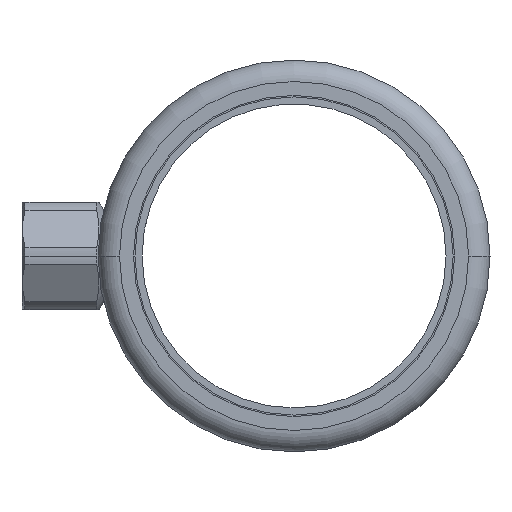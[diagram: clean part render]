
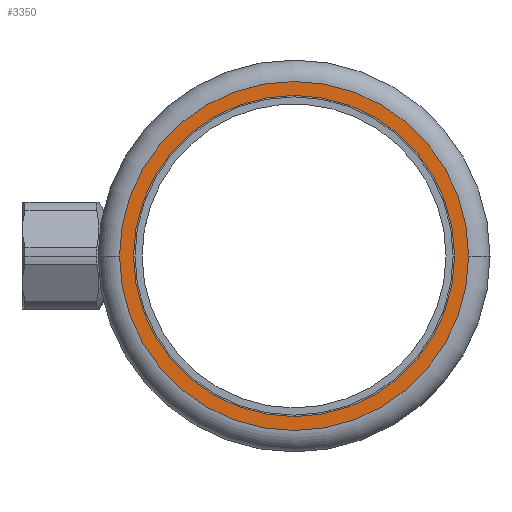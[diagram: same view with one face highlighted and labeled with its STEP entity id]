
A CAD part, left-side view. The second image highlights one B-rep face of the part: STEP entity #3350.
In plain terms, the highlighted planar face has unit normal (-1, 0, 0) as drawn and (1, 0, 0) by its records, which use the part's own axes.
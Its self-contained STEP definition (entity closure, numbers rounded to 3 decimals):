
#540=CARTESIAN_POINT('',(71.,44.85,0.));
#550=VERTEX_POINT('',#540);
#580=CARTESIAN_POINT('',(71.,0.,0.));
#590=DIRECTION('',(1.,0.,0.));
#600=DIRECTION('',(0.,1.,0.));
#610=AXIS2_PLACEMENT_3D('',#580,#590,#600);
#620=CIRCLE('',#610,44.85);
#630=CARTESIAN_POINT('',(71.,-44.85,0.));
#640=VERTEX_POINT('',#630);
#650=EDGE_CURVE('',#640,#550,#620,.T.);
#2630=CARTESIAN_POINT('',(71.,-48.75,0.));
#2640=VERTEX_POINT('',#2630);
#2670=CARTESIAN_POINT('',(71.,0.,0.));
#2680=DIRECTION('',(1.,0.,0.));
#2690=DIRECTION('',(0.,1.,0.));
#2700=AXIS2_PLACEMENT_3D('',#2670,#2680,#2690);
#2710=CIRCLE('',#2700,48.75);
#2720=CARTESIAN_POINT('',(71.,48.75,0.));
#2730=VERTEX_POINT('',#2720);
#2740=EDGE_CURVE('',#2640,#2730,#2710,.T.);
#3200=CARTESIAN_POINT('',(71.,45.25,0.));
#3210=DIRECTION('',(1.,0.,0.));
#3220=DIRECTION('',(0.,-1.,0.));
#3230=AXIS2_PLACEMENT_3D('',#3200,#3210,#3220);
#3240=PLANE('',#3230);
#3250=EDGE_CURVE('',#2730,#2640,#2710,.T.);
#3260=ORIENTED_EDGE('',*,*,#3250,.T.);
#3270=ORIENTED_EDGE('',*,*,#2740,.T.);
#3280=EDGE_LOOP('',(#3270,#3260));
#3290=FACE_OUTER_BOUND('',#3280,.T.);
#3300=EDGE_CURVE('',#550,#640,#620,.T.);
#3310=ORIENTED_EDGE('',*,*,#3300,.F.);
#3320=ORIENTED_EDGE('',*,*,#650,.F.);
#3330=EDGE_LOOP('',(#3320,#3310));
#3340=FACE_BOUND('',#3330,.T.);
#3350=ADVANCED_FACE('',(#3290,#3340),#3240,.T.);
